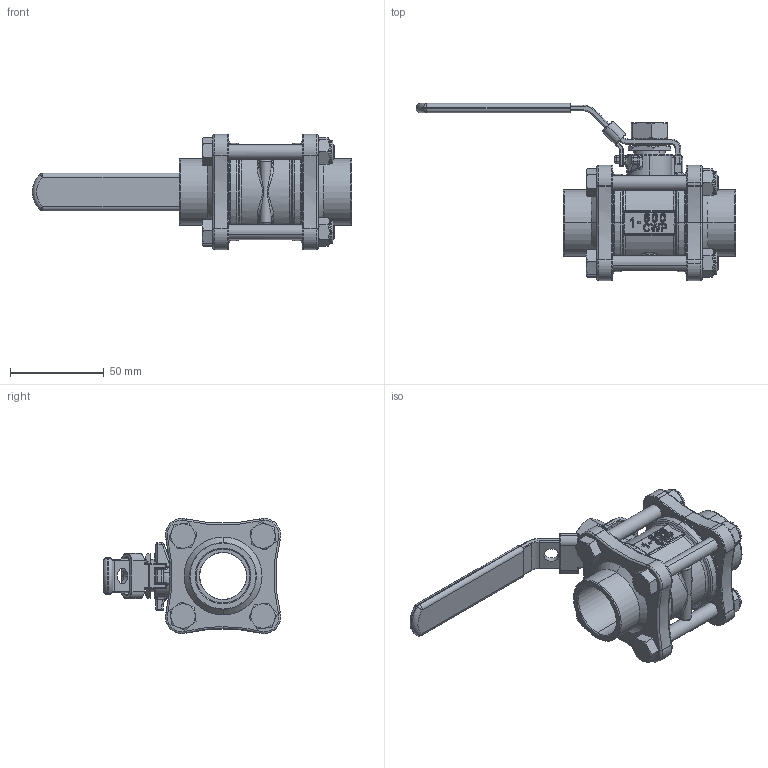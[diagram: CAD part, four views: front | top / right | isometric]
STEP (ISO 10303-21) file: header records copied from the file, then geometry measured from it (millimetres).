
FILE_DESCRIPTION (( 'STEP AP203' ), '1' );
FILE_NAME ('S-25.STEP', '2025-02-27T05:19:07', ( 'user' ), ( '' ), 'SwSTEP 2.0', 'SolidWorks 2012', '' );
FILE_SCHEMA (( 'CONFIG_CONTROL_DESIGN' ));
Products named in the file (17): S-25; 掛鎖; 15-HANDLE NUT; 14-HANDLE COVER; 13-HANDLE; 12-CAP BOLT; 11-CAP NUT; 10-GLAND; 9-BODY SEAL; 8-GLAND PACKING; 7-O-RING; 6-THRUST WASHER; 5-SEAT; 4-STEM; 3-BALL; 2-CAP; 1-BODY
Assembly tree (26 placements, depth 2):
  S-25
    1-BODY
    2-CAP  x2
    3-BALL
    4-STEM
    5-SEAT  x2
    6-THRUST WASHER
    7-O-RING  x2
    8-GLAND PACKING
    9-BODY SEAL  x2
    10-GLAND
    11-CAP NUT  x4
    12-CAP BOLT  x4
    13-HANDLE
    14-HANDLE COVER
    15-HANDLE NUT
    掛鎖
Bounding box: 170.04 x 94.36 x 61.36 mm (x, y, z)
Volume: 148373.2 mm3; surface area: 89084.2 mm2
Topology: 26 solids, 26 shells, 1562 faces, 3838 edges, 2311 vertices
Faces by surface type: cylinder 509, bspline 402, plane 295, cone 165, torus 141, sphere 50
Entity records: 75900 total; most frequent: CARTESIAN_POINT 50238, ORIENTED_EDGE 5380, DIRECTION 4376, EDGE_CURVE 2690, AXIS2_PLACEMENT_3D 1814, VERTEX_POINT 1627, EDGE_LOOP 1197, ADVANCED_FACE 1127
